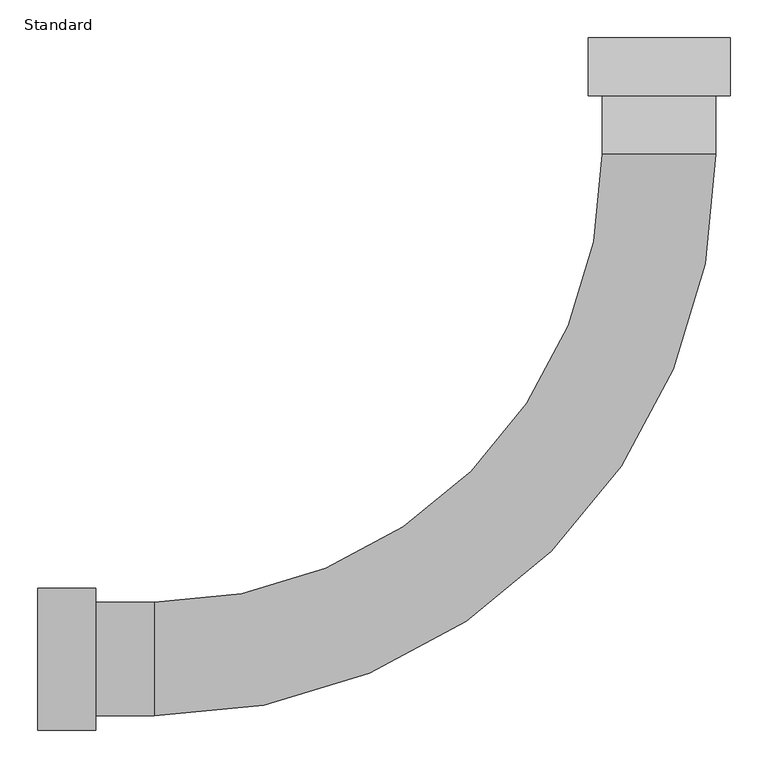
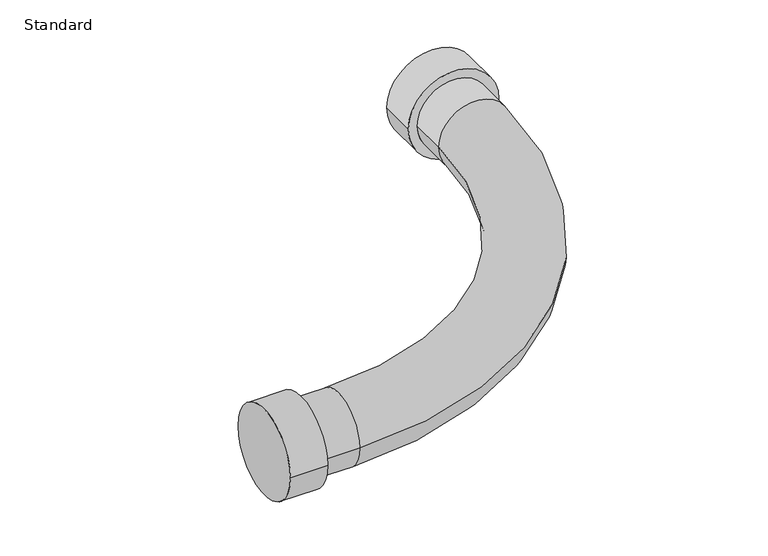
"""IFC4 building model written with IfcOpenShell, lengths in millimetres: cable carrier fitting geometry, Courbure de conduit en plastique épais rigide - PVC : Standard."""

from ifc_helpers import new_model, si_unit, point, frame, origin, place, context, project, spatial, circle_curve, ellipse_curve, trimmed, source, transform, mapped, element, save
from ifc_brep_helpers import plane_surface, cylinder_surface, revolved_surface, advanced_brep


def standard_d523098c(model_context):
    return source(origin(), model_context, "Body", "AdvancedBrep", [
        advanced_brep(
        [(93.75, 744.2, 0.0), (-93.75, 744.2, 0.0), (-75.0, 744.2, 0.0), (75.0, 744.2, 0.0), (93.75, 821.0, 0.0), (-93.75, 821.0, 0.0), (-744.2, -75.0, 0.0), (-667.4, -75.0, 0.0), (-667.4, 75.0, 0.0), (-744.2, 75.0, 0.0), (75.0, 667.4, 0.0), (-75.0, 667.4, 0.0), (-821.0, -93.75, 0.0), (-821.0, 93.75, 0.0), (-744.2, -93.75, 0.0), (-744.2, 93.75, 0.0)],
        [
            (0, 1, circle_curve(frame((0.0, 744.2, 0.0), z_axis=(0.0, -1.0, 0.0), x_axis=(-1.0, 0.0, 0.0)), 93.75)),
            (1, 0, circle_curve(frame((0.0, 744.2, 0.0), z_axis=(0.0, -1.0, 0.0), x_axis=(-1.0, 0.0, 0.0)), 93.75)),
            (2, 3, circle_curve(frame((0.0, 744.2, 0.0), z_axis=(0.0, 1.0, 0.0), x_axis=(-1.0, 0.0, 0.0)), 75.0)),
            (3, 2, circle_curve(frame((0.0, 744.2, 0.0), z_axis=(0.0, 1.0, 0.0), x_axis=(-1.0, 0.0, 0.0)), 75.0)),
            (4, 5, circle_curve(frame((0.0, 821.0, 0.0), z_axis=(0.0, 1.0, 0.0), x_axis=(-1.0, 0.0, 0.0)), 93.75)),
            (5, 4, circle_curve(frame((0.0, 821.0, 0.0), z_axis=(0.0, 1.0, 0.0), x_axis=(-1.0, 0.0, 0.0)), 93.75)),
            (0, 4),
            (5, 1),
            (6, 7),
            (7, 8, circle_curve(frame((-667.4, 0.0, 0.0), z_axis=(-1.0, 0.0, 0.0), x_axis=(0.0, 1.0, 0.0)), 75.0)),
            (8, 9),
            (9, 6, circle_curve(frame((-744.2, 0.0, 0.0), z_axis=(1.0, 0.0, 0.0), x_axis=(0.0, 1.0, 0.0)), 75.0)),
            (6, 9, circle_curve(frame((-744.2, 0.0, 0.0), z_axis=(1.0, 0.0, 0.0), x_axis=(0.0, 1.0, 0.0)), 75.0)),
            (8, 7, circle_curve(frame((-667.4, 0.0, 0.0), z_axis=(-1.0, 0.0, 0.0), x_axis=(0.0, 1.0, 0.0)), 75.0)),
            (7, 10, circle_curve(frame((-667.4, 667.4, 0.0), z_axis=(0.0, 0.0, 1.0), x_axis=(0.0, -1.0, 0.0)), 742.4)),
            (10, 11, circle_curve(frame((0.0, 667.4, 0.0), z_axis=(0.0, -1.0, 0.0), x_axis=(-1.0, 0.0, 0.0)), 75.0)),
            (11, 8, circle_curve(frame((-667.4, 667.4, 0.0), z_axis=(0.0, 0.0, -1.0), x_axis=(0.0, -1.0, 0.0)), 592.4)),
            (11, 10, circle_curve(frame((0.0, 667.4, 0.0), z_axis=(0.0, -1.0, 0.0), x_axis=(-1.0, 0.0, 0.0)), 75.0)),
            (10, 3),
            (2, 11),
            (12, 13, circle_curve(frame((-821.0, 0.0, 0.0), z_axis=(-1.0, 0.0, 0.0), x_axis=(0.0, 1.0, 0.0)), 93.75)),
            (13, 12, circle_curve(frame((-821.0, 0.0, 0.0), z_axis=(-1.0, 0.0, 0.0), x_axis=(0.0, 1.0, 0.0)), 93.75)),
            (14, 15, circle_curve(frame((-744.2, 0.0, 0.0), z_axis=(1.0, 0.0, 0.0), x_axis=(0.0, 1.0, 0.0)), 93.75)),
            (15, 14, circle_curve(frame((-744.2, 0.0, 0.0), z_axis=(1.0, 0.0, 0.0), x_axis=(0.0, 1.0, 0.0)), 93.75)),
            (12, 14),
            (15, 13),
        ],
        [
            plane_surface(frame((0.0, 744.2, 0.0), z_axis=(0.0, -1.0, 0.0), x_axis=(0.0, 0.0, 1.0))),
            plane_surface(frame((0.0, 821.0, 0.0), z_axis=(0.0, 1.0, 0.0), x_axis=(0.0, 0.0, 1.0))),
            cylinder_surface(frame((0.0, 744.2, 0.0), z_axis=(0.0, -1.0, 0.0), x_axis=(-1.0, 0.0, 0.0)), 93.75),
            cylinder_surface(frame((-744.2, 0.0, 0.0), z_axis=(-1.0, 0.0, 0.0), x_axis=(0.0, 1.0, 0.0)), 75.0),
            revolved_surface(trimmed(ellipse_curve(frame((-667.4, 0.0, 0.0), z_axis=(-1.0, 0.0, 0.0), x_axis=(0.0, 1.0, 0.0)), 75.0, 75.0), [point((-667.4, -75.0, 0.0))], [point((-667.4, 75.0, 0.0))], True, "CARTESIAN"), (-667.4, 667.4, 0.0), (0.0, 0.0, 1.0)),
            revolved_surface(trimmed(ellipse_curve(frame((-667.4, 0.0, 0.0), z_axis=(-1.0, 0.0, 0.0), x_axis=(0.0, 1.0, 0.0)), 75.0, 75.0), [point((-667.4, 75.0, 0.0))], [point((-667.4, -75.0, 0.0))], True, "CARTESIAN"), (-667.4, 667.4, 0.0), (0.0, 0.0, 1.0)),
            cylinder_surface(frame((0.0, 667.4, 0.0), z_axis=(0.0, -1.0, 0.0), x_axis=(-1.0, 0.0, 0.0)), 75.0),
            plane_surface(frame((-821.0, 0.0, 0.0), z_axis=(-1.0, 0.0, 0.0), x_axis=(0.0, 0.0, 1.0))),
            plane_surface(frame((-744.2, 0.0, 0.0), z_axis=(1.0, 0.0, 0.0), x_axis=(0.0, 0.0, 1.0))),
            cylinder_surface(frame((-821.0, 0.0, 0.0), z_axis=(-1.0, 0.0, 0.0), x_axis=(0.0, 1.0, 0.0)), 93.75),
        ],
        [
            (0, [[1, 2], [3, 4]]),
            (1, [[5, 6]]),
            (2, [[-1, 7, -6, 8]]),
            (2, [[-2, -8, -5, -7]]),
            (3, [[9, 10, 11, 12]]),
            (3, [[-9, 13, -11, 14]]),
            (4, [[-10, 15, 16, 17]]),
            (5, [[-14, -17, 18, -15]]),
            (6, [[-16, 19, -3, 20]]),
            (6, [[-18, -20, -4, -19]]),
            (7, [[21, 22]]),
            (8, [[23, 24], [-12, -13]]),
            (9, [[-21, 25, -24, 26]]),
            (9, [[-22, -26, -23, -25]]),
        ],
    ),
    ])


if __name__ == "__main__":
    model = new_model("IFC4")
    model_context = context("Model", 3, world=origin())
    ifc_project = project(units=[si_unit("LENGTHUNIT", "METRE", prefix="MILLI")], contexts=[model_context])
    site = spatial("IfcSite", under=ifc_project)
    building = spatial("IfcBuilding", under=site)
    placement = place(None, origin())
    standard_shape = standard_d523098c(model_context)
    element("IfcCableCarrierFitting", 1, ObjectType="Courbure de conduit en plastique épais rigide - PVC : Standard", at=placement, inside=building, context=model_context, shape_type="MappedRepresentation", body=[
        mapped(standard_shape, transform((0.0, 0.0, 0.0), x_axis=(1.0, 0.0, 0.0), y_axis=(0.0, 1.0, 0.0), z_axis=(0.0, 0.0, 1.0))),
    ])
    save(model, "model.ifc")
